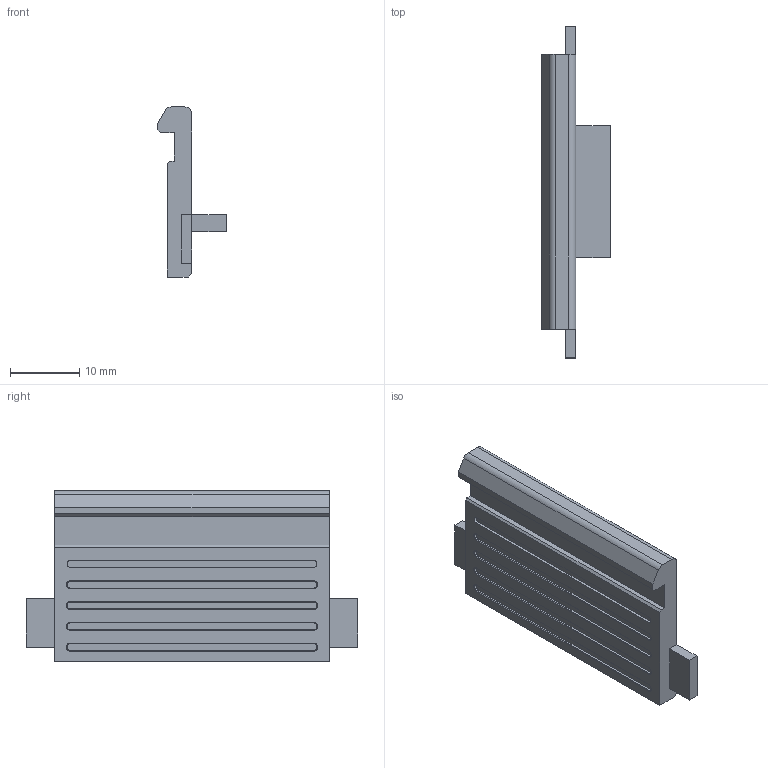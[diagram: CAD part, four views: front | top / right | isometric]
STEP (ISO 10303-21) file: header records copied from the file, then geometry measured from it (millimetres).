
FILE_DESCRIPTION (( 'STEP AP214' ), '1' );
FILE_NAME ('电池卡扣2.STEP', '2026-09-29T01:09:01', ( '微软用户' ), ( '微软中国' ), 'SwSTEP 2.0', 'SolidWorks 2016', '' );
FILE_SCHEMA (( 'AUTOMOTIVE_DESIGN' ));
Length unit declared in the file: millimetre
Products named in the file (1): 萇喀縐諶2
Bounding box: 9.9 x 47.8 x 24.5 mm (x, y, z)
Volume: 3602.7 mm3; surface area: 2971.3 mm2
Topology: 1 solids, 1 shells, 70 faces, 170 edges, 108 vertices
Faces by surface type: plane 50, cylinder 12, cone 8
Entity records: 2052 total; most frequent: CARTESIAN_POINT 349, DIRECTION 344, ORIENTED_EDGE 340, EDGE_CURVE 170, LINE 138, VECTOR 138, VERTEX_POINT 108, AXIS2_PLACEMENT_3D 103
